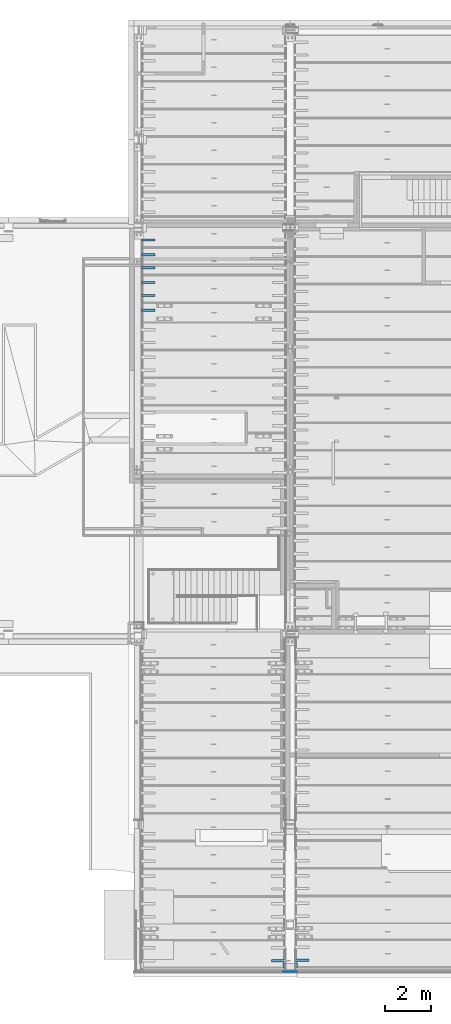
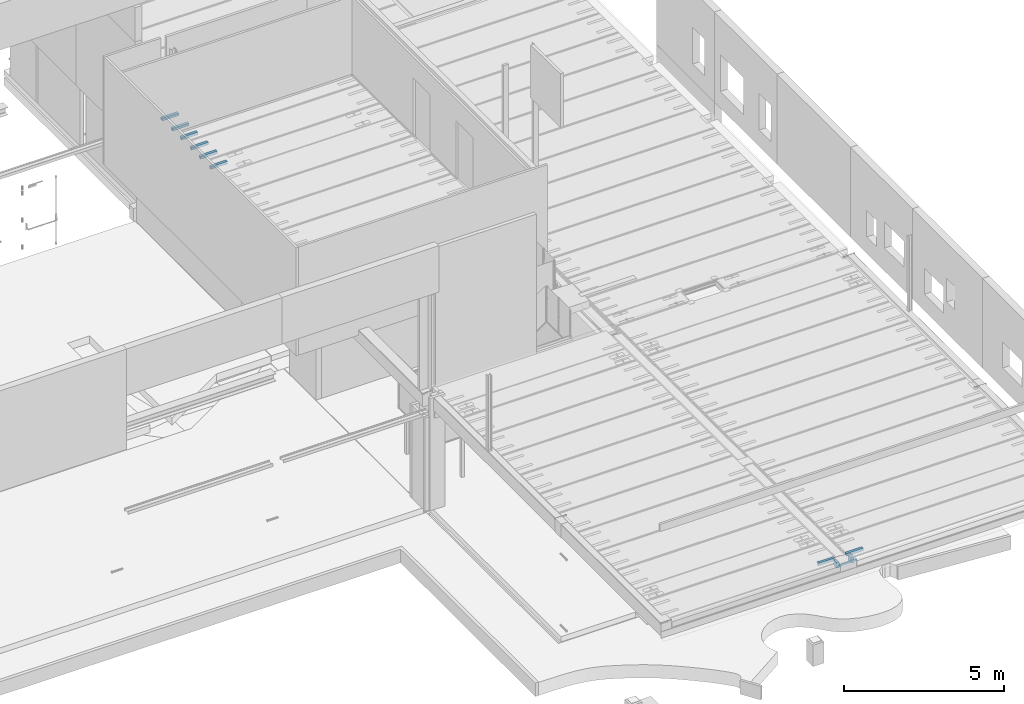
# One storey, part 15 of 230: 11 beams.
"""IFC4X3_ADD2 building model written with IfcOpenShell, lengths in millimetres."""

from ifc_helpers import new_model, si_unit, direction, frame, frame_2d, origin_with_axes, place, context, subcontext, project, spatial, rectangle, extrude, material, element, save


model = new_model("IFC4X3_ADD2")

# Units and contexts
model_context = context("Model", 3, precision=1e-05, world=origin_with_axes(), true_north=direction((0.0, 1.0)))
body_context = subcontext(model_context, "Body", "Model", "MODEL_VIEW")
ifc_project = project(units=[si_unit("LENGTHUNIT", "METRE", prefix="MILLI"), si_unit("AREAUNIT", "SQUARE_METRE"), si_unit("VOLUMEUNIT", "CUBIC_METRE"), si_unit("PLANEANGLEUNIT", "RADIAN"), si_unit("TIMEUNIT", "SECOND"), si_unit("MASSUNIT", "GRAM")], contexts=[model_context])

# Site, building, storey
site_placement = place(None, origin_with_axes())
site = spatial("IfcSite", under=ifc_project, at=site_placement, Name="Site", CompositionType="ELEMENT")
building_placement = place(site_placement, origin_with_axes())
building = spatial("IfcBuilding", under=site, at=building_placement, Name="IFC Building Story")
storey_placement = place(building_placement, origin_with_axes())
storey = spatial("IfcBuildingStorey", under=building, at=storey_placement, Name="ETAGE 00 (0)", Elevation=0.0)

# Beams
ifc_material = material(Name="STEEL/Accessory_invisible")
for number, where, z_axis, x_axis, name in (
    (1, (34116.189, 17270.0009155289, 4150.0), (-1.0, 0.0, 0.0), (0.0, 1.0, 0.0), "ES7"),
    (2, (34116.189, 16630.0009155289, 4150.0), (-1.0, 0.0, 0.0), (0.0, 1.0, 0.0), "ES7"),
    (3, (34116.189, 16070.0009155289, 4150.0), (-1.0, 0.0, 0.0), (0.0, 1.0, 0.0), "ES7"),
    (4, (34116.189, 15430.0009155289, 4150.0), (-1.0, 0.0, 0.0), (0.0, 1.0, 0.0), "ES7"),
    (5, (34116.189, 14870.0009155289, 4150.0), (-1.0, 0.0, 0.0), (0.0, 1.0, 0.0), "ES7"),
    (6, (34116.189, 14230.0008970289, 4150.0), (-1.0, 0.0, 0.0), (0.0, 1.0, 0.0), "ES7"),
):
    element("IfcBeam", number, at=place(storey_placement, frame(where, z_axis=z_axis, x_axis=x_axis)), inside=storey, material=ifc_material, Name=name, ObjectType="100*100", context=body_context, shape_type="SweptSolid", body=[
        extrude(rectangle(XDim=100.0, YDim=99.99999999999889, at=frame_2d((0.0, 5.95523630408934e-12), x_axis=(1.0, 0.0))), origin_with_axes(), (0.0, 0.0, 1.0), 600.0),
    ])
beam_1_placement = place(storey_placement, frame((39650.6922247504, -14154.999771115, 4100.0), z_axis=(1.0, 0.0, 0.0), x_axis=(0.0, 0.0, -1.0)))
element("IfcBeam", 7, at=beam_1_placement, inside=storey, material=ifc_material, Name="ES32", ObjectType="200*210", context=body_context, shape_type="SweptSolid", body=[
    extrude(rectangle(XDim=200.0, YDim=210.000000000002, at=frame_2d((0.0, 5.95523630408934e-12), x_axis=(1.0, 0.0))), origin_with_axes(), (0.0, 0.0, 1.0), 100.0000000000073),
])
beam_2_placement = place(storey_placement, frame((39750.6922247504, -13939.999771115, 4150.0), z_axis=(-1.0, 0.0, 0.0), x_axis=(0.0, -1.0, 0.0)))
element("IfcBeam", 8, at=beam_2_placement, inside=storey, material=ifc_material, Name="ES7", ObjectType="100*100", context=body_context, shape_type="SweptSolid", body=[
    extrude(rectangle(XDim=100.0, YDim=99.99999999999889, at=frame_2d((0.0, 5.95523630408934e-12), x_axis=(1.0, 0.0))), origin_with_axes(), (0.0, 0.0, 1.0), 600.0000000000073),
])
beam_3_placement = place(storey_placement, frame((40781.189, -13920.0, 4150.0), z_axis=(-1.0, 0.0, 0.0), x_axis=(0.0, 1.0, 0.0)))
element("IfcBeam", 9, at=beam_3_placement, inside=storey, material=ifc_material, Name="ES7", ObjectType="100*100", context=body_context, shape_type="SweptSolid", body=[
    extrude(rectangle(XDim=100.0, YDim=99.99999999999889, at=frame_2d((0.0, 5.95523630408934e-12), x_axis=(1.0, 0.0))), origin_with_axes(), (0.0, 0.0, 1.0), 600.0),
])
beam_4_placement = place(storey_placement, frame((40281.189006, -14145.0, 4099.9999909), z_axis=(-1.0, 0.0, 0.0), x_axis=(0.0, 0.0, 1.0)))
element("IfcBeam", 10, at=beam_4_placement, inside=storey, material=ifc_material, Name="ES32", ObjectType="200*190", context=body_context, shape_type="SweptSolid", body=[
    extrude(rectangle(XDim=200.0, YDim=189.999999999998, at=frame_2d((0.0, 5.95523630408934e-12), x_axis=(1.0, 0.0))), origin_with_axes(), (0.0, 0.0, 1.0), 100.0),
])
beam_5_placement = place(storey_placement, frame((40261.08900000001, -14430.0, 4204.5), z_axis=(-1.0, 0.0, 0.0), x_axis=(0.0, 1.0, 0.0)))
element("IfcBeam", 11, at=beam_5_placement, inside=storey, material=ifc_material, Name="ZW3", ObjectType="1*1 3", context=body_context, shape_type="SweptSolid", body=[
    extrude(rectangle(XDim=0.9999999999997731, YDim=0.9999999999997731, at=frame_2d((0.0, 5.95523630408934e-12), x_axis=(1.0, 0.0))), origin_with_axes(), (0.0, 0.0, 1.0), 589.9000000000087),
])

save(model, "model.ifc")
